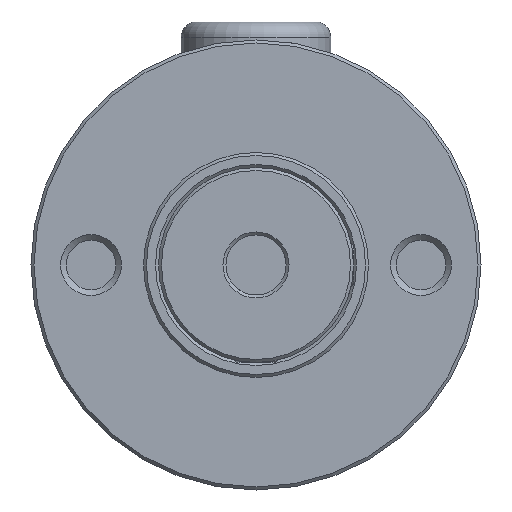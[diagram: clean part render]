
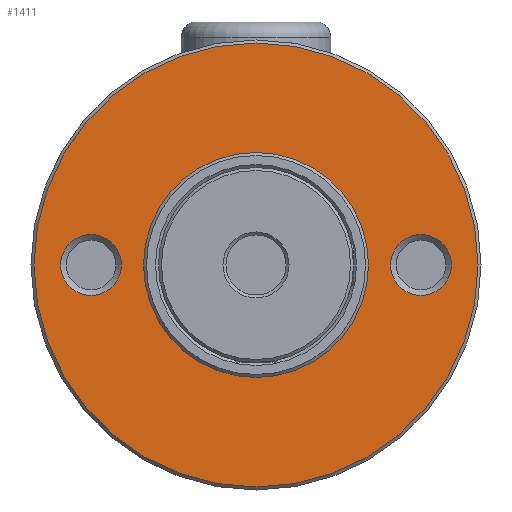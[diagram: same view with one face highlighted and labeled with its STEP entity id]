
A CAD part, front view. The second image highlights one B-rep face of the part: STEP entity #1411.
In plain terms, the highlighted planar face has unit normal (0, -1, 0).
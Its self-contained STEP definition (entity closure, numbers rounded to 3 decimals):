
#82 = CARTESIAN_POINT ( 'NONE',  ( 11., 0., 0. ) ) ;
#116 = AXIS2_PLACEMENT_3D ( 'NONE', #2478, #755, #1242 ) ;
#130 = FACE_OUTER_BOUND ( 'NONE', #2036, .T. ) ;
#230 = CIRCLE ( 'NONE', #314, 14.8 ) ;
#269 = CARTESIAN_POINT ( 'NONE',  ( 0., 0., 14.8 ) ) ;
#300 = CARTESIAN_POINT ( 'NONE',  ( 0., 0., 0. ) ) ;
#314 = AXIS2_PLACEMENT_3D ( 'NONE', #1618, #666, #1386 ) ;
#483 = AXIS2_PLACEMENT_3D ( 'NONE', #300, #1294, #2433 ) ;
#576 = CARTESIAN_POINT ( 'NONE',  ( -11., 0., 2.025 ) ) ;
#609 = ORIENTED_EDGE ( 'NONE', *, *, #1191, .F. ) ;
#666 = DIRECTION ( 'NONE',  ( 0., -1., 0. ) ) ;
#678 = DIRECTION ( 'NONE',  ( 0., 0., 1. ) ) ;
#709 = ORIENTED_EDGE ( 'NONE', *, *, #2411, .T. ) ;
#755 = DIRECTION ( 'NONE',  ( 0., -1., 0. ) ) ;
#1089 = FACE_BOUND ( 'NONE', #2282, .T. ) ;
#1096 = ORIENTED_EDGE ( 'NONE', *, *, #1135, .T. ) ;
#1128 = VERTEX_POINT ( 'NONE', #2305 ) ;
#1135 = EDGE_CURVE ( 'NONE', #2410, #2410, #230, .T. ) ;
#1191 = EDGE_CURVE ( 'NONE', #1219, #1219, #1475, .T. ) ;
#1212 = DIRECTION ( 'NONE',  ( 0., -1., 0. ) ) ;
#1219 = VERTEX_POINT ( 'NONE', #1246 ) ;
#1242 = DIRECTION ( 'NONE',  ( 0., 0., 1. ) ) ;
#1246 = CARTESIAN_POINT ( 'NONE',  ( 11., 0., 2.025 ) ) ;
#1276 = PLANE ( 'NONE',  #1807 ) ;
#1294 = DIRECTION ( 'NONE',  ( 0., 1., 0. ) ) ;
#1351 = AXIS2_PLACEMENT_3D ( 'NONE', #82, #1212, #678 ) ;
#1386 = DIRECTION ( 'NONE',  ( 0., 0., 1. ) ) ;
#1411 = ADVANCED_FACE ( 'NONE', ( #130, #1089, #2445, #2240 ), #1276, .T. ) ;
#1474 = EDGE_LOOP ( 'NONE', ( #709 ) ) ;
#1475 = CIRCLE ( 'NONE', #1351, 2.025 ) ;
#1500 = EDGE_LOOP ( 'NONE', ( #609 ) ) ;
#1588 = ORIENTED_EDGE ( 'NONE', *, *, #2441, .F. ) ;
#1618 = CARTESIAN_POINT ( 'NONE',  ( 0., 0., 0. ) ) ;
#1642 = DIRECTION ( 'NONE',  ( 0., -1., 0. ) ) ;
#1702 = VERTEX_POINT ( 'NONE', #576 ) ;
#1732 = CIRCLE ( 'NONE', #116, 2.025 ) ;
#1807 = AXIS2_PLACEMENT_3D ( 'NONE', #2063, #1642, #2227 ) ;
#1939 = CIRCLE ( 'NONE', #483, 7.5 ) ;
#2036 = EDGE_LOOP ( 'NONE', ( #1096 ) ) ;
#2063 = CARTESIAN_POINT ( 'NONE',  ( 0., 0., 0. ) ) ;
#2227 = DIRECTION ( 'NONE',  ( 0., 0., 1. ) ) ;
#2240 = FACE_BOUND ( 'NONE', #1474, .T. ) ;
#2282 = EDGE_LOOP ( 'NONE', ( #1588 ) ) ;
#2305 = CARTESIAN_POINT ( 'NONE',  ( 0., 0., -7.5 ) ) ;
#2410 = VERTEX_POINT ( 'NONE', #269 ) ;
#2411 = EDGE_CURVE ( 'NONE', #1128, #1128, #1939, .T. ) ;
#2433 = DIRECTION ( 'NONE',  ( 0., 0., -1. ) ) ;
#2441 = EDGE_CURVE ( 'NONE', #1702, #1702, #1732, .T. ) ;
#2445 = FACE_BOUND ( 'NONE', #1500, .T. ) ;
#2478 = CARTESIAN_POINT ( 'NONE',  ( -11., 0., 0. ) ) ;
